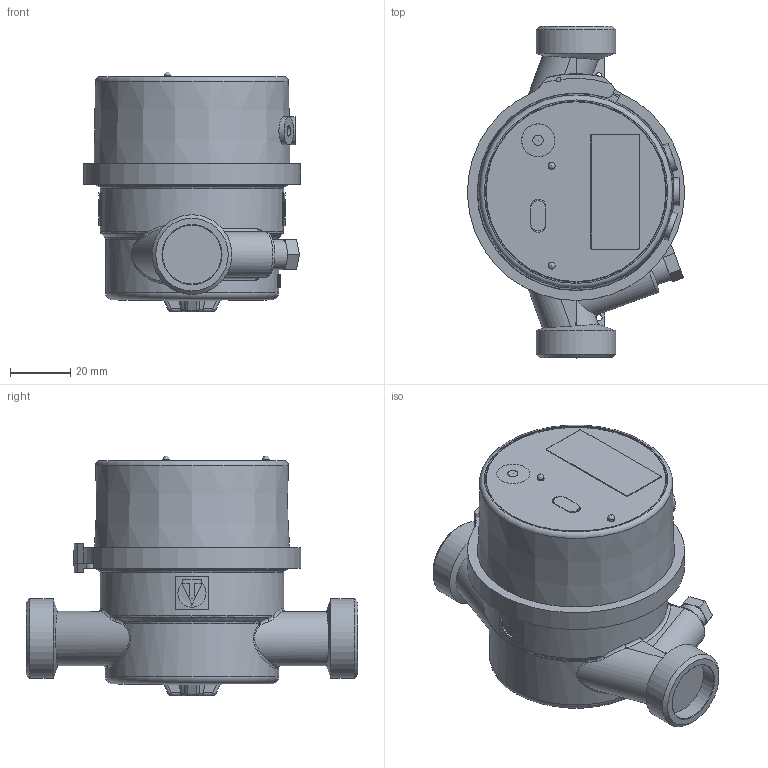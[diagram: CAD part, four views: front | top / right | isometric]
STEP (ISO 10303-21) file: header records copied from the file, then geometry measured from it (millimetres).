
FILE_DESCRIPTION(('STEP AP203'), '1');
FILE_NAME('VHM-T', '2024-06-18T13:27:13', ('Boss'), (''), 'C3D Converter', 'C3D Toolkit', '');
FILE_SCHEMA(('CONFIG_CONTROL_DESIGN'));
Length unit declared in the file: millimetre
Products named in the file (1): ВР.407223.001.000 СБ
Bounding box: 71.93 x 110 x 79.5 mm (x, y, z)
Volume: 249501.9 mm3; surface area: 34226.2 mm2
Topology: 2 solids, 3 shells, 533 faces, 1397 edges, 897 vertices
Faces by surface type: plane 222, cylinder 127, extrusion 113, bspline 24, cone 20, torus 15, sphere 12
Full cylindrical faces by diameter (mm): 1.5 x2, 2 x2, 2.2 x2, 2.3 x2, 3.4 x4, 5 x1, 5.2 x3, 5.6 x3, 9.3 x3, 10 x1, 11 x1, 19.5 x2, 26.441 x2, 57.4 x1, 59.6 x1, 60 x1, 60.8 x1, 63 x1, 69 x1
Entity records: 24860 total; most frequent: CARTESIAN_POINT 12764, ORIENTED_EDGE 2664, DIRECTION 2074, EDGE_CURVE 1332, VERTEX_POINT 893, VECTOR 708, AXIS2_PLACEMENT_3D 683, EDGE_LOOP 635
